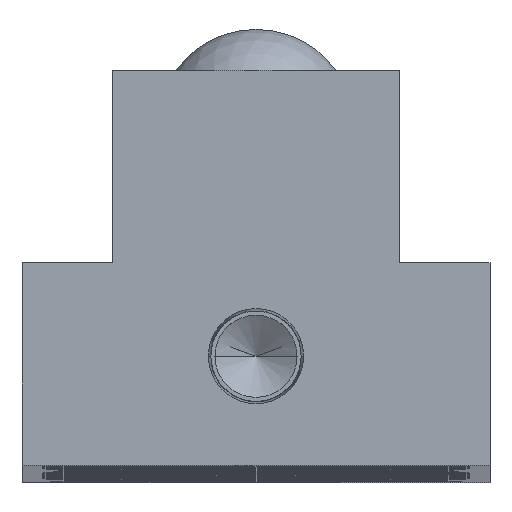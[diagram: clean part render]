
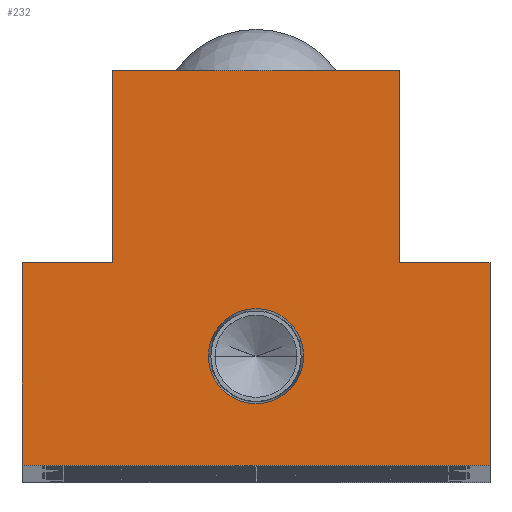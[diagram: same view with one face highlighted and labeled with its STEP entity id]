
A CAD part, top view. The second image highlights one B-rep face of the part: STEP entity #232.
In plain terms, the highlighted planar face has unit normal (0, 0, 1).
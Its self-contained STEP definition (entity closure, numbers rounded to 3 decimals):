
#232 = ADVANCED_FACE ( 'NONE', ( #3246, #10299 ), #6986, .F. ) ;
#319 = VERTEX_POINT ( 'NONE', #13483 ) ;
#683 = ORIENTED_EDGE ( 'NONE', *, *, #14191, .T. ) ;
#906 = CARTESIAN_POINT ( 'NONE',  ( -4.574, 10.5, 0. ) ) ;
#1233 = EDGE_CURVE ( 'NONE', #13254, #11729, #5067, .T. ) ;
#1357 = EDGE_CURVE ( 'NONE', #7860, #319, #10876, .T. ) ;
#1535 = VERTEX_POINT ( 'NONE', #8265 ) ;
#1814 = CARTESIAN_POINT ( 'NONE',  ( -13.75, 38., 0. ) ) ;
#1921 = CARTESIAN_POINT ( 'NONE',  ( 4.574, 10.5, 0. ) ) ;
#2417 = VECTOR ( 'NONE', #11875, 1000. ) ;
#2553 = CARTESIAN_POINT ( 'NONE',  ( 22.5, 19.5, 0. ) ) ;
#2622 = EDGE_CURVE ( 'NONE', #1535, #7860, #7747, .T. ) ;
#2632 = EDGE_CURVE ( 'NONE', #13406, #11448, #14363, .T. ) ;
#3246 = FACE_BOUND ( 'NONE', #8064, .T. ) ;
#3417 = VECTOR ( 'NONE', #4120, 1000. ) ;
#3497 = EDGE_LOOP ( 'NONE', ( #11778, #4137, #11166, #10498, #683, #6690, #9306, #8901 ) ) ;
#3539 = CARTESIAN_POINT ( 'NONE',  ( 0., 10.5, 0. ) ) ;
#3937 = CARTESIAN_POINT ( 'NONE',  ( -13.75, 19.5, 0. ) ) ;
#3942 = CARTESIAN_POINT ( 'NONE',  ( -13.75, 19.5, 0. ) ) ;
#4120 = DIRECTION ( 'NONE',  ( 0., 1., 0. ) ) ;
#4137 = ORIENTED_EDGE ( 'NONE', *, *, #14444, .T. ) ;
#4154 = CARTESIAN_POINT ( 'NONE',  ( 13.75, 38., 0. ) ) ;
#4186 = CARTESIAN_POINT ( 'NONE',  ( 22.5, 19.5, 0. ) ) ;
#4261 = DIRECTION ( 'NONE',  ( -1., 0., 0. ) ) ;
#4867 = DIRECTION ( 'NONE',  ( 1., 0., 0. ) ) ;
#5067 = CIRCLE ( 'NONE', #10169, 4.574 ) ;
#5163 = DIRECTION ( 'NONE',  ( 0., 0., -1. ) ) ;
#5242 = AXIS2_PLACEMENT_3D ( 'NONE', #5649, #5163, #4261 ) ;
#5270 = LINE ( 'NONE', #14469, #11909 ) ;
#5649 = CARTESIAN_POINT ( 'NONE',  ( 0., 0., 0. ) ) ;
#6134 = DIRECTION ( 'NONE',  ( 0., 1., 0. ) ) ;
#6179 = AXIS2_PLACEMENT_3D ( 'NONE', #3539, #12803, #4867 ) ;
#6551 = DIRECTION ( 'NONE',  ( 0., 0., 1. ) ) ;
#6690 = ORIENTED_EDGE ( 'NONE', *, *, #6931, .T. ) ;
#6931 = EDGE_CURVE ( 'NONE', #12433, #16081, #15658, .T. ) ;
#6986 = PLANE ( 'NONE',  #5242 ) ;
#7273 = EDGE_CURVE ( 'NONE', #11729, #13254, #10715, .T. ) ;
#7465 = CARTESIAN_POINT ( 'NONE',  ( 13.75, 38., 0. ) ) ;
#7747 = LINE ( 'NONE', #16647, #10845 ) ;
#7860 = VERTEX_POINT ( 'NONE', #12595 ) ;
#8064 = EDGE_LOOP ( 'NONE', ( #9614, #11574 ) ) ;
#8265 = CARTESIAN_POINT ( 'NONE',  ( -22.5, 0., 0. ) ) ;
#8901 = ORIENTED_EDGE ( 'NONE', *, *, #2622, .T. ) ;
#9242 = VECTOR ( 'NONE', #13163, 1000. ) ;
#9306 = ORIENTED_EDGE ( 'NONE', *, *, #14977, .T. ) ;
#9584 = LINE ( 'NONE', #15668, #15350 ) ;
#9614 = ORIENTED_EDGE ( 'NONE', *, *, #1233, .F. ) ;
#10169 = AXIS2_PLACEMENT_3D ( 'NONE', #14493, #6551, #15802 ) ;
#10299 = FACE_OUTER_BOUND ( 'NONE', #3497, .T. ) ;
#10498 = ORIENTED_EDGE ( 'NONE', *, *, #16548, .T. ) ;
#10715 = CIRCLE ( 'NONE', #6179, 4.574 ) ;
#10845 = VECTOR ( 'NONE', #12737, 1000. ) ;
#10876 = LINE ( 'NONE', #4186, #3417 ) ;
#10983 = CARTESIAN_POINT ( 'NONE',  ( -13.75, 38., 0. ) ) ;
#11166 = ORIENTED_EDGE ( 'NONE', *, *, #2632, .T. ) ;
#11448 = VERTEX_POINT ( 'NONE', #4154 ) ;
#11522 = CARTESIAN_POINT ( 'NONE',  ( 13.75, 19.5, 0. ) ) ;
#11574 = ORIENTED_EDGE ( 'NONE', *, *, #7273, .F. ) ;
#11729 = VERTEX_POINT ( 'NONE', #906 ) ;
#11778 = ORIENTED_EDGE ( 'NONE', *, *, #1357, .T. ) ;
#11875 = DIRECTION ( 'NONE',  ( -1., 0., 0. ) ) ;
#11909 = VECTOR ( 'NONE', #17111, 1000. ) ;
#12364 = DIRECTION ( 'NONE',  ( 0., -1., 0. ) ) ;
#12433 = VERTEX_POINT ( 'NONE', #3942 ) ;
#12595 = CARTESIAN_POINT ( 'NONE',  ( 22.5, 0., 0. ) ) ;
#12661 = VERTEX_POINT ( 'NONE', #1814 ) ;
#12737 = DIRECTION ( 'NONE',  ( 1., 0., 0. ) ) ;
#12779 = LINE ( 'NONE', #2553, #9242 ) ;
#12803 = DIRECTION ( 'NONE',  ( 0., 0., 1. ) ) ;
#12987 = VECTOR ( 'NONE', #12364, 1000. ) ;
#13163 = DIRECTION ( 'NONE',  ( -1., 0., 0. ) ) ;
#13254 = VERTEX_POINT ( 'NONE', #1921 ) ;
#13406 = VERTEX_POINT ( 'NONE', #11522 ) ;
#13429 = CARTESIAN_POINT ( 'NONE',  ( -22.5, 19.5, 0. ) ) ;
#13483 = CARTESIAN_POINT ( 'NONE',  ( 22.5, 19.5, 0. ) ) ;
#13951 = VECTOR ( 'NONE', #6134, 1000. ) ;
#14191 = EDGE_CURVE ( 'NONE', #12661, #12433, #16484, .T. ) ;
#14363 = LINE ( 'NONE', #7465, #13951 ) ;
#14444 = EDGE_CURVE ( 'NONE', #319, #13406, #12779, .T. ) ;
#14469 = CARTESIAN_POINT ( 'NONE',  ( -22.5, 19.5, 0. ) ) ;
#14493 = CARTESIAN_POINT ( 'NONE',  ( 0., 10.5, 0. ) ) ;
#14977 = EDGE_CURVE ( 'NONE', #16081, #1535, #5270, .T. ) ;
#15350 = VECTOR ( 'NONE', #15725, 1000. ) ;
#15658 = LINE ( 'NONE', #3937, #2417 ) ;
#15668 = CARTESIAN_POINT ( 'NONE',  ( -13.75, 38., 0. ) ) ;
#15725 = DIRECTION ( 'NONE',  ( -1., 0., 0. ) ) ;
#15802 = DIRECTION ( 'NONE',  ( 1., 0., 0. ) ) ;
#16081 = VERTEX_POINT ( 'NONE', #13429 ) ;
#16484 = LINE ( 'NONE', #10983, #12987 ) ;
#16548 = EDGE_CURVE ( 'NONE', #11448, #12661, #9584, .T. ) ;
#16647 = CARTESIAN_POINT ( 'NONE',  ( 22.5, 0., 0. ) ) ;
#17111 = DIRECTION ( 'NONE',  ( 0., -1., 0. ) ) ;
